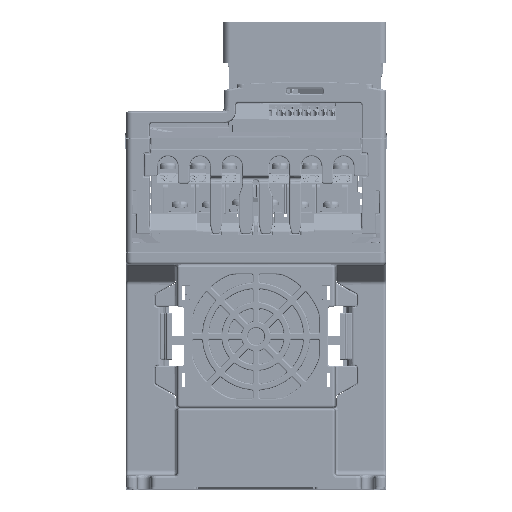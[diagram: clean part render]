
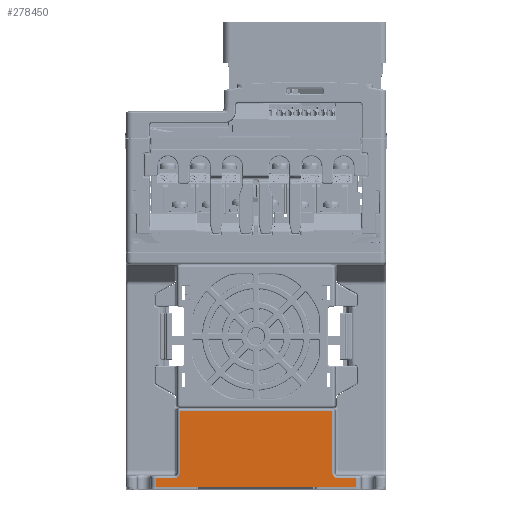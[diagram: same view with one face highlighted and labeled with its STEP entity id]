
A CAD part, top view. The second image highlights one B-rep face of the part: STEP entity #278450.
In plain terms, the highlighted planar face has unit normal (0, 0, 1).
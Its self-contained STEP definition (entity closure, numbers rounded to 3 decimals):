
#245440=DIRECTION('',(-1.,0.,0.));
#245441=VECTOR('',#245440,64.161);
#245442=CARTESIAN_POINT('',(86.58,-0.127,0.));
#245443=LINE('',#245442,#245441);
#247240=CARTESIAN_POINT('',(96.6,-28.42,
0.));
#247285=DIRECTION('',(-1.,0.,0.));
#247286=VECTOR('',#247285,8.021);
#247287=CARTESIAN_POINT('',(96.6,-28.42,
0.));
#247288=LINE('',#247287,#247286);
#247300=DIRECTION('',(0.,-1.,0.));
#247301=VECTOR('',#247300,3.58);
#247302=CARTESIAN_POINT('',(96.6,-28.42,
0.));
#247303=LINE('',#247302,#247301);
#247307=DIRECTION('',(-1.,0.,0.));
#247308=VECTOR('',#247307,84.201);
#247309=CARTESIAN_POINT('',(96.6,-32.,0.));
#247310=LINE('',#247309,#247308);
#247314=DIRECTION('',(0.,-1.,0.));
#247315=VECTOR('',#247314,3.58);
#247316=CARTESIAN_POINT('',(12.4,-28.42,
0.));
#247317=LINE('',#247316,#247315);
#256699=DIRECTION('',(0.,-1.,0.));
#256700=VECTOR('',#256699,26.294);
#256701=CARTESIAN_POINT('',(22.42,-0.127,0.));
#256702=LINE('',#256701,#256700);
#256733=CARTESIAN_POINT('',(22.42,-26.421,
0.));
#256734=CARTESIAN_POINT('',(22.42,-26.637,
0.));
#256735=CARTESIAN_POINT('',(22.354,-27.045,
0.));
#256736=CARTESIAN_POINT('',(22.065,-27.615,
0.));
#256737=CARTESIAN_POINT('',(21.617,-28.064,
0.));
#256738=CARTESIAN_POINT('',(21.046,-28.353,
0.));
#256739=CARTESIAN_POINT('',(20.637,-28.42,
0.));
#256740=CARTESIAN_POINT('',(20.421,-28.42,
0.));
#256745=DIRECTION('',(-1.,0.,
0.));
#256746=VECTOR('',#256745,8.021);
#256747=CARTESIAN_POINT('',(20.421,-28.42,
0.));
#256748=LINE('',#256747,#256746);
#257068=DIRECTION('',(0.,1.,0.));
#257069=VECTOR('',#257068,26.294);
#257070=CARTESIAN_POINT('',(86.58,-26.421,
0.));
#257071=LINE('',#257070,#257069);
#257122=CARTESIAN_POINT('',(88.579,-28.42,
0.));
#257123=CARTESIAN_POINT('',(88.363,-28.42,
0.));
#257124=CARTESIAN_POINT('',(87.955,-28.354,
0.));
#257125=CARTESIAN_POINT('',(87.385,-28.065,
0.));
#257126=CARTESIAN_POINT('',(86.936,-27.617,
0.));
#257127=CARTESIAN_POINT('',(86.647,-27.046,
0.));
#257128=CARTESIAN_POINT('',(86.58,-26.637,
0.));
#257129=CARTESIAN_POINT('',(86.58,-26.421,
0.));
#268819=CARTESIAN_POINT('',(12.4,-32.,0.));
#268820=VERTEX_POINT('',#268819);
#268821=CARTESIAN_POINT('',(96.6,-32.,0.));
#268822=VERTEX_POINT('',#268821);
#269038=CARTESIAN_POINT('',(22.42,-0.127,0.));
#269039=VERTEX_POINT('',#269038);
#269040=CARTESIAN_POINT('',(86.58,-0.127,0.));
#269041=VERTEX_POINT('',#269040);
#269256=VERTEX_POINT('',#247240);
#269257=CARTESIAN_POINT('',(88.579,-28.42,
0.));
#269258=VERTEX_POINT('',#269257);
#269259=CARTESIAN_POINT('',(12.4,-28.42,
0.));
#269260=VERTEX_POINT('',#269259);
#269261=CARTESIAN_POINT('',(20.421,-28.42,
0.));
#269262=VERTEX_POINT('',#269261);
#269263=VERTEX_POINT('',#256733);
#269264=CARTESIAN_POINT('',(86.58,-26.421,
0.));
#269265=VERTEX_POINT('',#269264);
#278427=CARTESIAN_POINT('',(0.,-33.,0.));
#278428=DIRECTION('',(0.,0.,1.));
#278429=DIRECTION('',(1.,0.,0.));
#278430=AXIS2_PLACEMENT_3D('',#278427,#278428,#278429);
#278431=PLANE('',#278430);
#278432=ORIENTED_EDGE('',*,*,#278420,.F.);
#278433=ORIENTED_EDGE('',*,*,#278383,.T.);
#278434=ORIENTED_EDGE('',*,*,#275682,.T.);
#278436=ORIENTED_EDGE('',*,*,#278435,.F.);
#278438=ORIENTED_EDGE('',*,*,#278437,.F.);
#278440=ORIENTED_EDGE('',*,*,#278439,.F.);
#278442=ORIENTED_EDGE('',*,*,#278441,.F.);
#278443=ORIENTED_EDGE('',*,*,#276185,.F.);
#278445=ORIENTED_EDGE('',*,*,#278444,.F.);
#278447=ORIENTED_EDGE('',*,*,#278446,.F.);
#278448=EDGE_LOOP('',(#278432,#278433,#278434,#278436,#278438,#278440,#278442,
#278443,#278445,#278447));
#278449=FACE_OUTER_BOUND('',#278448,.F.);
#256741=B_SPLINE_CURVE_WITH_KNOTS('',3,(#256733,#256734,#256735,#256736,#256737,
#256738,#256739,#256740),.UNSPECIFIED.,.F.,.F.,(4,1,1,1,1,4),(0.,0.2,0.4,
0.6,0.8,1.),.UNSPECIFIED.);
#257130=B_SPLINE_CURVE_WITH_KNOTS('',3,(#257122,#257123,#257124,#257125,#257126,
#257127,#257128,#257129),.UNSPECIFIED.,.F.,.F.,(4,1,1,1,1,4),(0.,0.2,0.4,
0.6,0.8,1.),.UNSPECIFIED.);
#275682=EDGE_CURVE('',#268822,#268820,#247310,.T.);
#276185=EDGE_CURVE('',#269041,#269039,#245443,.T.);
#278383=EDGE_CURVE('',#269256,#268822,#247303,.T.);
#278420=EDGE_CURVE('',#269256,#269258,#247288,.T.);
#278435=EDGE_CURVE('',#269260,#268820,#247317,.T.);
#278437=EDGE_CURVE('',#269262,#269260,#256748,.T.);
#278439=EDGE_CURVE('',#269263,#269262,#256741,.T.);
#278441=EDGE_CURVE('',#269039,#269263,#256702,.T.);
#278444=EDGE_CURVE('',#269265,#269041,#257071,.T.);
#278446=EDGE_CURVE('',#269258,#269265,#257130,.T.);
#278450=ADVANCED_FACE('',(#278449),#278431,.T.);
